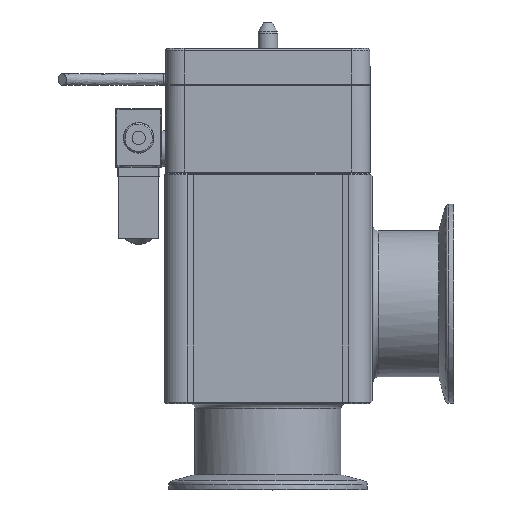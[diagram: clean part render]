
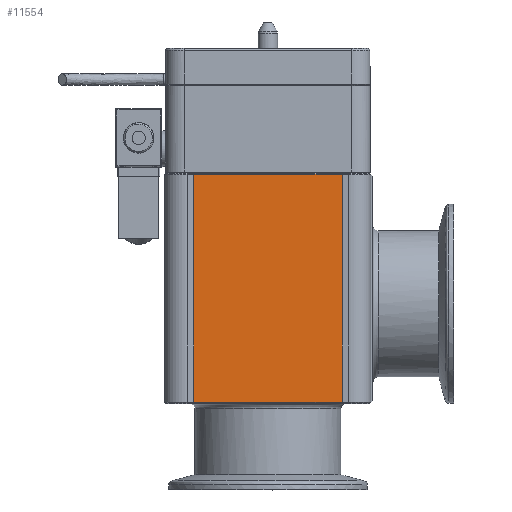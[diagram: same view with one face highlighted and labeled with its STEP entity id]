
A CAD part, top view. The second image highlights one B-rep face of the part: STEP entity #11554.
In plain terms, the highlighted free-form (B-spline) face has degree [1, 1] with [2, 2] control points.
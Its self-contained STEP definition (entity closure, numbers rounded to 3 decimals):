
#7787=CARTESIAN_POINT('V148',(27.938,0.4,
   38.5));
#7788=VERTEX_POINT('V148',#7787);
#7831=CARTESIAN_POINT('V146',(-27.938,0.4,
   38.5));
#7832=VERTEX_POINT('V146',#7831);
#7838=CARTESIAN_POINT('E251',(-27.938,0.4,
   38.5));
#7839=CARTESIAN_POINT('E251',(27.938,0.4,
   38.5));
#7840=B_SPLINE_CURVE_WITH_KNOTS('E251',1,(#7838,#7839),
   .POLYLINE_FORM.,.F.,.U.,(2,2),(2.0,100.775),
   .UNSPECIFIED.);
#7841=EDGE_CURVE('E251',#7832,#7788,#7840,.T.);
#8811=CARTESIAN_POINT('V96',(-27.938,86.1,
   38.5));
#8812=VERTEX_POINT('V96',#8811);
#8855=CARTESIAN_POINT('V94',(27.938,86.1,
   38.5));
#8856=VERTEX_POINT('V94',#8855);
#8862=CARTESIAN_POINT('E153',(27.938,86.1,
   38.5));
#8863=CARTESIAN_POINT('E153',(-27.938,86.1,
   38.5));
#8864=B_SPLINE_CURVE_WITH_KNOTS('E153',1,(#8862,#8863),
   .POLYLINE_FORM.,.F.,.U.,(2,2),(2.0,100.775),
   .UNSPECIFIED.);
#8865=EDGE_CURVE('E153',#8856,#8812,#8864,.T.);
#11531=CARTESIAN_POINT('E49',(-27.938,0.4,
   38.5));
#11532=CARTESIAN_POINT('E49',(-27.938,86.1,
   38.5));
#11533=B_SPLINE_CURVE_WITH_KNOTS('E49',1,(#11531,#11532),
   .POLYLINE_FORM.,.F.,.U.,(2,2),(0.17,
   36.514),.UNSPECIFIED.);
#11534=EDGE_CURVE('E49',#7832,#8812,#11533,.T.);
#11539=CARTESIAN_POINT('F17',(-27.938,0.0,
   38.5));
#11540=CARTESIAN_POINT('F17',(27.938,0.0,
   38.5));
#11541=CARTESIAN_POINT('F17',(-27.938,90.0,
   38.5));
#11542=CARTESIAN_POINT('F17',(27.938,90.0,
   38.5));
#11543=B_SPLINE_SURFACE_WITH_KNOTS('F17',1,1,((#11539,#11541),(
   #11540,#11542)),.PLANE_SURF.,.F.,.F.,.U.,(2,2),(2,2),(0.0,1.0),
   (0.0,1.611),.UNSPECIFIED.);
#11544=ORIENTED_EDGE('E251',*,*,#7841,.F.);
#11545=ORIENTED_EDGE('F16',*,*,#11534,.T.);
#11546=ORIENTED_EDGE('E153',*,*,#8865,.F.);
#11547=CARTESIAN_POINT('E52',(27.938,0.4,
   38.5));
#11548=CARTESIAN_POINT('E52',(27.938,86.1,
   38.5));
#11549=B_SPLINE_CURVE_WITH_KNOTS('E52',1,(#11547,#11548),
   .POLYLINE_FORM.,.F.,.U.,(2,2),(0.007,
   1.541),.UNSPECIFIED.);
#11550=EDGE_CURVE('E52',#7788,#8856,#11549,.T.);
#11551=ORIENTED_EDGE('E52',*,*,#11550,.F.);
#11552=EDGE_LOOP('F17',(#11544,#11545,#11546,#11551));
#11553=FACE_OUTER_BOUND('F17',#11552,.F.);
#11554=ADVANCED_FACE('F17',(#11553),#11543,.T.);
